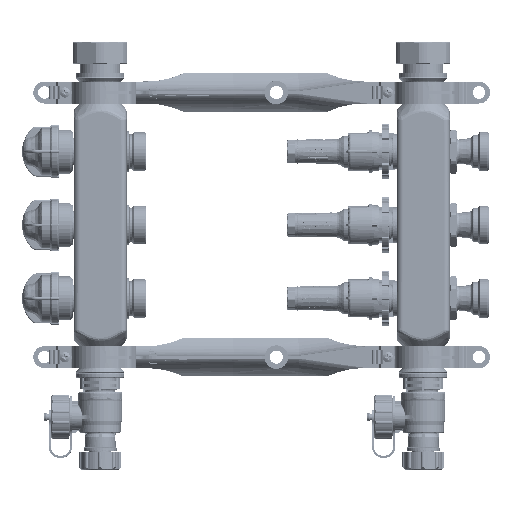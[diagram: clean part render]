
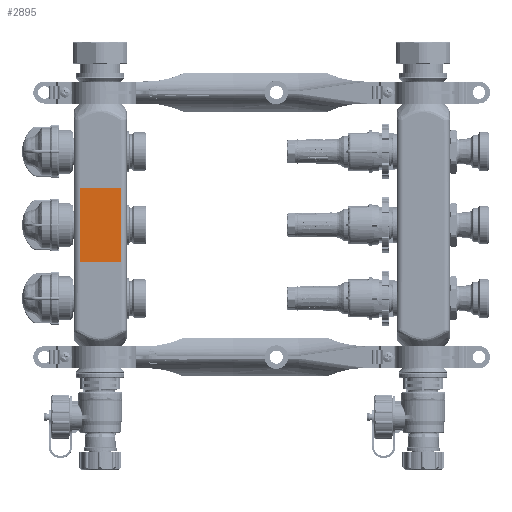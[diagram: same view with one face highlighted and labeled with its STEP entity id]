
A CAD part, left-side view. The second image highlights one B-rep face of the part: STEP entity #2895.
In plain terms, the highlighted planar face has unit normal (-1, 0, 0).
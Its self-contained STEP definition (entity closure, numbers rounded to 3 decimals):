
#2895 = ADVANCED_FACE ( 'NONE', ( #142089 ), #126740, .T. ) ;
#4466 = EDGE_CURVE ( 'NONE', #75220, #153516, #49674, .T. ) ;
#13558 = VECTOR ( 'NONE', #121713, 1000. ) ;
#16340 = EDGE_CURVE ( 'NONE', #123356, #75220, #40457, .T. ) ;
#33406 = CARTESIAN_POINT ( 'NONE',  ( 2., 37., 120. ) ) ;
#33468 = DIRECTION ( 'NONE',  ( 0., 0., 1. ) ) ;
#37903 = CARTESIAN_POINT ( 'NONE',  ( 2., 37., 0. ) ) ;
#40457 = LINE ( 'NONE', #168133, #216524 ) ;
#49674 = LINE ( 'NONE', #70963, #13558 ) ;
#50541 = CARTESIAN_POINT ( 'NONE',  ( 2., 37., 70. ) ) ;
#57678 = ORIENTED_EDGE ( 'NONE', *, *, #4466, .F. ) ;
#70963 = CARTESIAN_POINT ( 'NONE',  ( 2., 37., 70. ) ) ;
#75220 = VERTEX_POINT ( 'NONE', #124044 ) ;
#75793 = DIRECTION ( 'NONE',  ( 0., 0., 1. ) ) ;
#76642 = EDGE_LOOP ( 'NONE', ( #102298, #111257, #187203, #57678 ) ) ;
#82030 = VECTOR ( 'NONE', #75793, 1000. ) ;
#87846 = CARTESIAN_POINT ( 'NONE',  ( 2., 37., 216.496 ) ) ;
#99413 = AXIS2_PLACEMENT_3D ( 'NONE', #87846, #181256, #33468 ) ;
#101443 = VERTEX_POINT ( 'NONE', #33406 ) ;
#102298 = ORIENTED_EDGE ( 'NONE', *, *, #16340, .F. ) ;
#109462 = VECTOR ( 'NONE', #215098, 1000. ) ;
#111257 = ORIENTED_EDGE ( 'NONE', *, *, #131568, .T. ) ;
#112701 = EDGE_CURVE ( 'NONE', #153516, #101443, #113493, .T. ) ;
#113493 = LINE ( 'NONE', #37903, #82030 ) ;
#117758 = CARTESIAN_POINT ( 'NONE',  ( 2., 9., 120. ) ) ;
#121713 = DIRECTION ( 'NONE',  ( 0., 1., 0. ) ) ;
#123356 = VERTEX_POINT ( 'NONE', #117758 ) ;
#124044 = CARTESIAN_POINT ( 'NONE',  ( 2., 9., 70. ) ) ;
#126740 = PLANE ( 'NONE',  #99413 ) ;
#129092 = DIRECTION ( 'NONE',  ( 0., 0., -1. ) ) ;
#131568 = EDGE_CURVE ( 'NONE', #123356, #101443, #197416, .T. ) ;
#142089 = FACE_OUTER_BOUND ( 'NONE', #76642, .T. ) ;
#153516 = VERTEX_POINT ( 'NONE', #50541 ) ;
#168133 = CARTESIAN_POINT ( 'NONE',  ( 2., 9., 0. ) ) ;
#181256 = DIRECTION ( 'NONE',  ( -1., 0., 0. ) ) ;
#187203 = ORIENTED_EDGE ( 'NONE', *, *, #112701, .F. ) ;
#197416 = LINE ( 'NONE', #230442, #109462 ) ;
#215098 = DIRECTION ( 'NONE',  ( 0., 1., 0. ) ) ;
#216524 = VECTOR ( 'NONE', #129092, 1000. ) ;
#230442 = CARTESIAN_POINT ( 'NONE',  ( 2., 37., 120. ) ) ;
